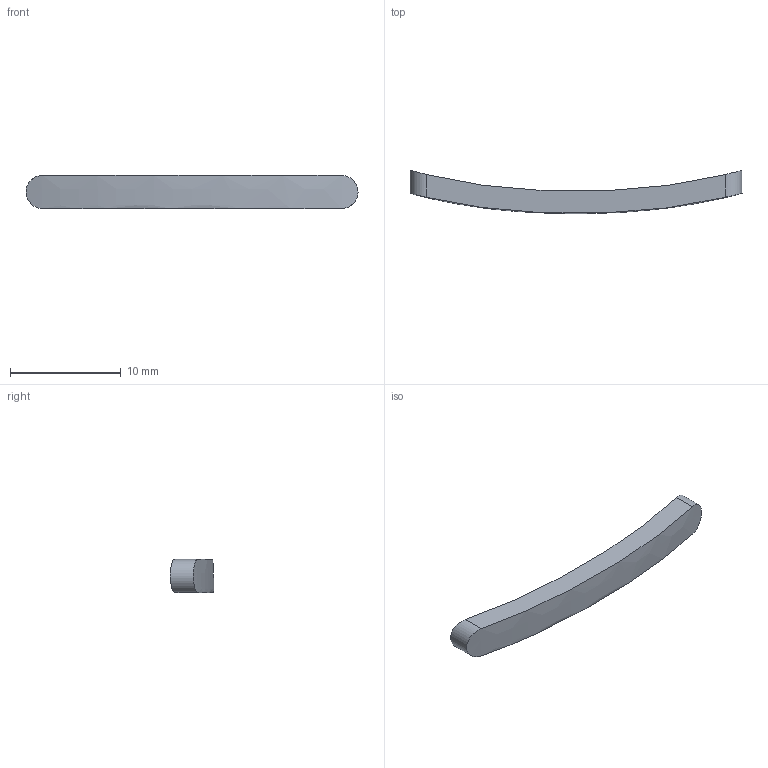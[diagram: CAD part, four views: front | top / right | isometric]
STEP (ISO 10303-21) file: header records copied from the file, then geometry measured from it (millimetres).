
FILE_DESCRIPTION(('Open CASCADE Model'),'2;1');
FILE_NAME('Open CASCADE Shape Model','2026-11-11T21:44:34',('Author'),( 'Open CASCADE'),'Open CASCADE STEP processor 8.0','build123d', 'Unknown');
FILE_SCHEMA(('AUTOMOTIVE_DESIGN { 1 0 10303 214 1 1 1 1 }'));
Length unit declared in the file: millimetre
Products named in the file (1): SOLID
Bounding box: 30 x 3.9 x 3 mm (x, y, z)
Volume: 177.9 mm3; surface area: 306.3 mm2
Topology: 1 solids, 1 shells, 6 faces, 12 edges, 8 vertices
Faces by surface type: plane 2, bspline 2, cylinder 2
Entity records: 27119 total; most frequent: CARTESIAN_POINT 26908, B_SPLINE_CURVE_WITH_KNOTS 26, ORIENTED_EDGE 24, PCURVE 24, DEFINITIONAL_REPRESENTATION 24, DIRECTION 20, EDGE_CURVE 12, SURFACE_CURVE 12
